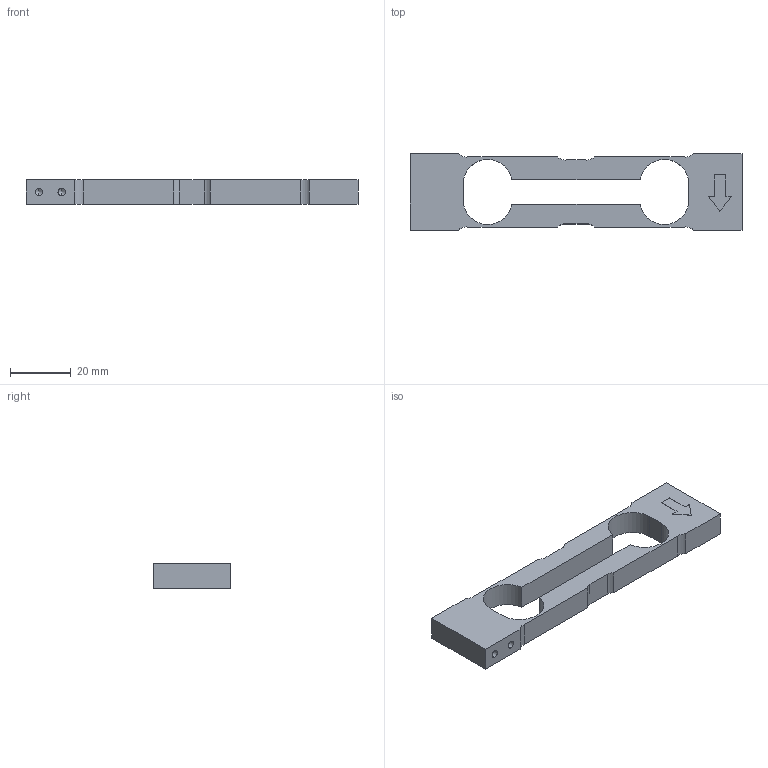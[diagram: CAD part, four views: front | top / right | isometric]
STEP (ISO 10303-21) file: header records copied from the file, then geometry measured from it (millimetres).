
FILE_DESCRIPTION (( 'STEP AP203' ), '1' );
FILE_NAME ('RSP2-load-cell-only.STEP', '2015-03-19T17:48:15', ( '' ), ( '' ), 'SwSTEP 2.0', 'SolidWorks 2013', '' );
FILE_SCHEMA (( 'CONFIG_CONTROL_DESIGN' ));
Length unit declared in the file: millimetre
Products named in the file (1): RSP2-load-cell-only
Bounding box: 109 x 25 x 8 mm (x, y, z)
Volume: 13027.3 mm3; surface area: 7131.2 mm2
Topology: 1 solids, 1 shells, 54 faces, 145 edges, 90 vertices
Faces by surface type: plane 26, cylinder 20, cone 8
Entity records: 1710 total; most frequent: DIRECTION 287, CARTESIAN_POINT 282, ORIENTED_EDGE 274, EDGE_CURVE 137, VECTOR 97, LINE 97, AXIS2_PLACEMENT_3D 95, VERTEX_POINT 90
